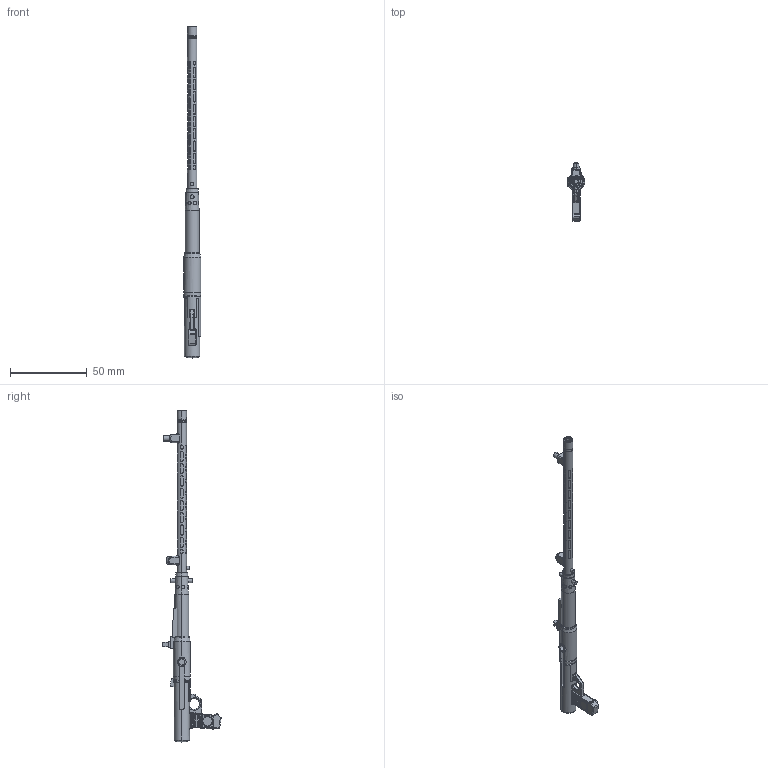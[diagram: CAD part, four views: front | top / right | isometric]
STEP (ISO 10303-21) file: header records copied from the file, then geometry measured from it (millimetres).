
FILE_DESCRIPTION (( 'STEP AP203' ), '1' );
FILE_NAME ('japanese-gun-001-main-body.STEP', '2013-11-16T22:55:27', ( 'Kirk' ), ( 'Microsoft' ), 'SwSTEP 2.0', 'SolidWorks 2012', '' );
FILE_SCHEMA (( 'CONFIG_CONTROL_DESIGN' ));
Products named in the file (1): japanese-gun-001-main-body
Bounding box: 11.41 x 37.91 x 216.18 mm (x, y, z)
Volume: 12719 mm3; surface area: 7950.9 mm2
Topology: 1 solids, 1 shells, 793 faces, 2064 edges, 1329 vertices
Faces by surface type: plane 294, cylinder 262, bspline 150, torus 70, sphere 10, cone 7
Entity records: 38632 total; most frequent: CARTESIAN_POINT 20419, ORIENTED_EDGE 4128, DIRECTION 3206, EDGE_CURVE 2064, VERTEX_POINT 1329, AXIS2_PLACEMENT_3D 1100, VECTOR 1006, LINE 1006
